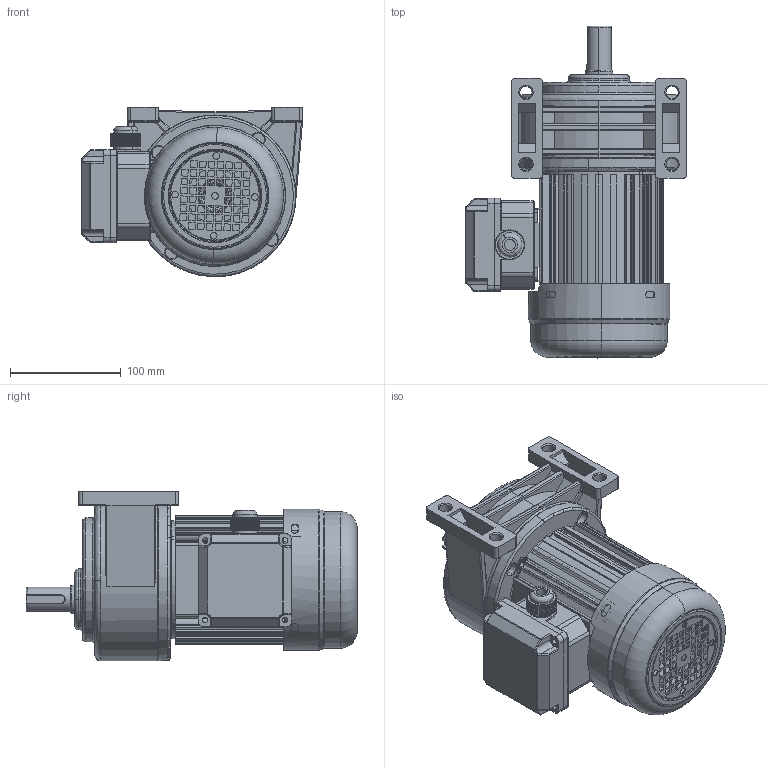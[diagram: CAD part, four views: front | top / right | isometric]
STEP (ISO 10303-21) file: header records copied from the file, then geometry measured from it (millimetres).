
FILE_DESCRIPTION (( 'STEP AP203' ), '1' );
FILE_NAME ('100W饜2#湍价陬拏宒.STEP', '2020-04-17T02:28:18', ( '' ), ( '' ), 'SwSTEP 2.0', 'SolidWorks 2019', '' );
FILE_SCHEMA (( 'CONFIG_CONTROL_DESIGN' ));
Length unit declared in the file: millimetre
Products named in the file (7): 諉芛; 湍价陬諉盄碟裔; 100W饜2#拏宒; 100W饜2#湍价陬拏宒; 蜊輛綴諉盄碟釱3; 100W价陬瑞欶; 100W棠憤迖殤
Assembly tree (6 placements, depth 2):
  100W饜2#湍价陬拏宒
    100W饜2#拏宒
    100W棠憤迖殤
    100W价陬瑞欶
    蜊輛綴諉盄碟釱3
    諉芛
    湍价陬諉盄碟裔
Bounding box: 199.5 x 299.5 x 153 mm (x, y, z)
Volume: 1827064 mm3; surface area: 452732.5 mm2
Topology: 8 solids, 8 shells, 2381 faces, 6247 edges, 3905 vertices
Faces by surface type: cylinder 780, plane 780, bspline 343, torus 266, cone 156, sphere 56
Entity records: 95927 total; most frequent: CARTESIAN_POINT 38914, ORIENTED_EDGE 12378, DIRECTION 11128, EDGE_CURVE 6189, AXIS2_PLACEMENT_3D 4223, VERTEX_POINT 3903, VECTOR 2682, LINE 2682
